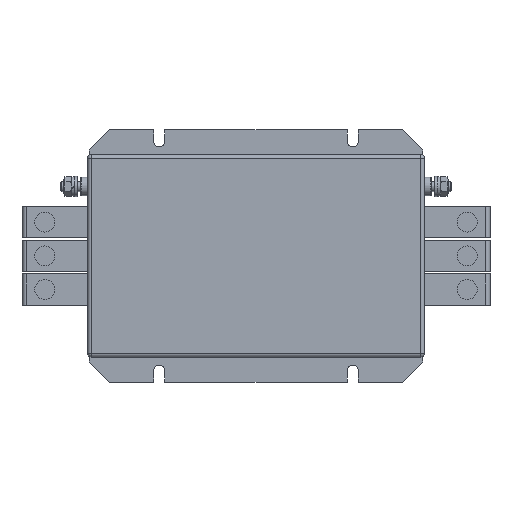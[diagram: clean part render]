
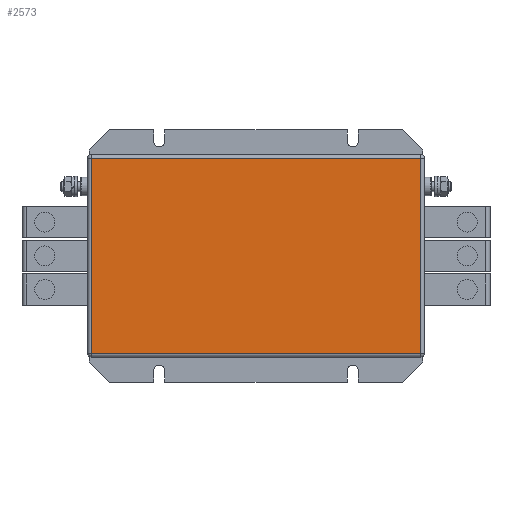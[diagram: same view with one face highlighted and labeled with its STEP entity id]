
A CAD part, top view. The second image highlights one B-rep face of the part: STEP entity #2573.
In plain terms, the highlighted planar face has unit normal (0, 0, 1).
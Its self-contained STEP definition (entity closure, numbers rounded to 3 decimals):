
#123=PLANE('',#2849);
#230=FACE_OUTER_BOUND('',#387,.T.);
#387=EDGE_LOOP('',(#1822,#1823,#1824,#1825));
#722=LINE('',#4064,#918);
#723=LINE('',#4066,#919);
#729=LINE('',#4085,#925);
#731=LINE('',#4088,#927);
#918=VECTOR('',#3215,10.);
#919=VECTOR('',#3218,10.);
#925=VECTOR('',#3238,10.);
#927=VECTOR('',#3242,10.);
#1131=VERTEX_POINT('',#4042);
#1133=VERTEX_POINT('',#4048);
#1134=VERTEX_POINT('',#4052);
#1137=VERTEX_POINT('',#4060);
#1394=EDGE_CURVE('',#1134,#1137,#722,.T.);
#1395=EDGE_CURVE('',#1137,#1133,#723,.T.);
#1405=EDGE_CURVE('',#1131,#1134,#729,.T.);
#1407=EDGE_CURVE('',#1133,#1131,#731,.T.);
#1822=ORIENTED_EDGE('',*,*,#1394,.F.);
#1823=ORIENTED_EDGE('',*,*,#1405,.F.);
#1824=ORIENTED_EDGE('',*,*,#1407,.F.);
#1825=ORIENTED_EDGE('',*,*,#1395,.F.);
#2573=ADVANCED_FACE('',(#230),#123,.T.);
#2849=AXIS2_PLACEMENT_3D('',#4107,#3262,#3263);
#3215=DIRECTION('',(0.,1.,0.));
#3218=DIRECTION('',(1.,0.,0.));
#3238=DIRECTION('',(-1.,0.,0.));
#3242=DIRECTION('',(0.,-1.,0.));
#3262=DIRECTION('center_axis',(0.,0.,1.));
#3263=DIRECTION('ref_axis',(1.,0.,0.));
#4042=CARTESIAN_POINT('',(98.,-58.,80.));
#4048=CARTESIAN_POINT('',(98.,58.,80.));
#4052=CARTESIAN_POINT('',(-98.,-58.,80.));
#4060=CARTESIAN_POINT('',(-98.,58.,80.));
#4064=CARTESIAN_POINT('',(-98.,30.,80.));
#4066=CARTESIAN_POINT('',(50.,58.,80.));
#4085=CARTESIAN_POINT('',(-50.,-58.,80.));
#4088=CARTESIAN_POINT('',(98.,-30.,80.));
#4107=CARTESIAN_POINT('Origin',(0.,0.,80.));
